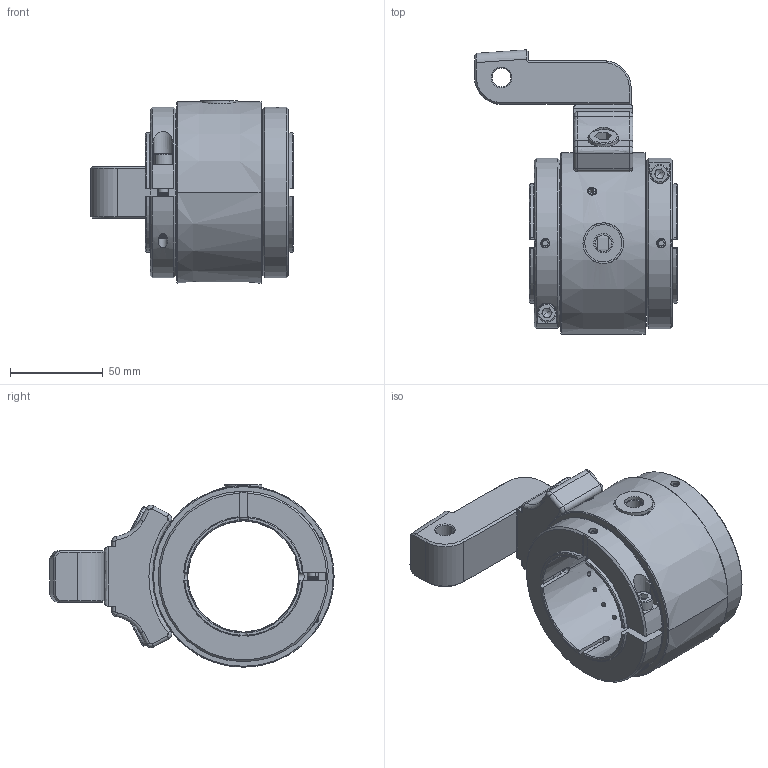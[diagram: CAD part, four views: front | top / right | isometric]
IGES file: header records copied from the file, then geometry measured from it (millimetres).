
Start section:  PTC IGES file: 6158129030.igs
Global section: file name: 6158129030.igs; native system: Creo Parametric by PTC Inc.; preprocessor: 2016050; author: greextsd; organization: Unknown; date: 20160602.133038; units: millimetre
Bounding box: 109.5 x 153.45 x 98.5 mm (x, y, z)
Volume: 389689.7 mm3; surface area: 105907.2 mm2
Topology: 1 solids, 1 shells, 663 faces, 1817 edges, 1122 vertices
Faces by surface type: revolution 402, bspline 261
